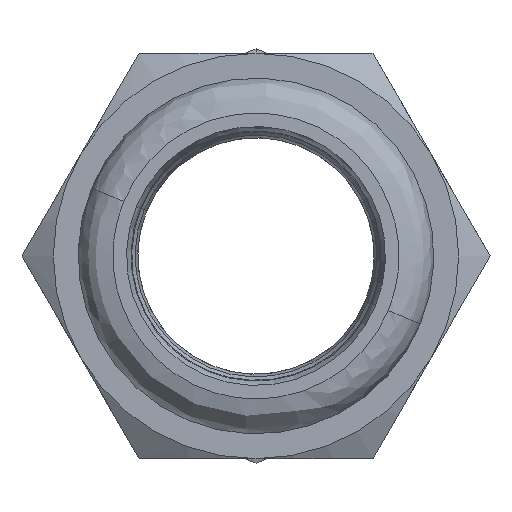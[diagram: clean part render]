
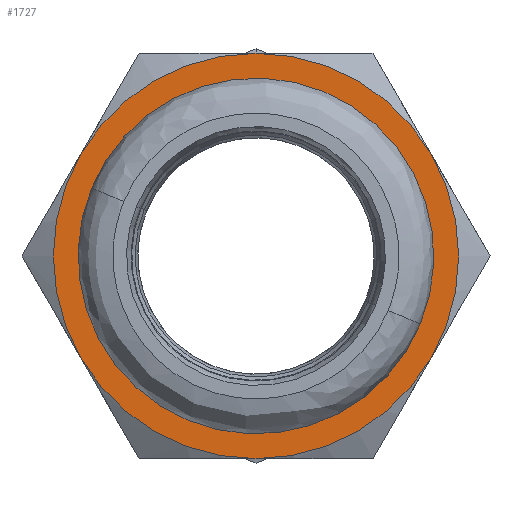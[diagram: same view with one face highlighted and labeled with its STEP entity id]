
A CAD part, left-side view. The second image highlights one B-rep face of the part: STEP entity #1727.
In plain terms, the highlighted planar face has unit normal (-1, 0, 0) as drawn and (0, 1, 0) by its records, which use the part's own axes.
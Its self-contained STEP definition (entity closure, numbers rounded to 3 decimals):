
#75 = ORIENTED_EDGE ( 'NONE', *, *, #4840, .T. ) ;
#177 = DIRECTION ( 'NONE',  ( 0., -1., 0. ) ) ;
#337 = AXIS2_PLACEMENT_3D ( 'NONE', #4874, #1326, #3311 ) ;
#390 = CARTESIAN_POINT ( 'NONE',  ( 15.588, 17., 9. ) ) ;
#499 = ORIENTED_EDGE ( 'NONE', *, *, #2508, .T. ) ;
#558 = VERTEX_POINT ( 'NONE', #2681 ) ;
#697 = FACE_BOUND ( 'NONE', #4267, .T. ) ;
#756 = AXIS2_PLACEMENT_3D ( 'NONE', #4436, #2142, #4473 ) ;
#765 = ORIENTED_EDGE ( 'NONE', *, *, #2080, .T. ) ;
#833 = DIRECTION ( 'NONE',  ( 0., 1., 0. ) ) ;
#834 = CARTESIAN_POINT ( 'NONE',  ( 0., 17., 18. ) ) ;
#851 = DIRECTION ( 'NONE',  ( 0., 0., -1. ) ) ;
#964 = CARTESIAN_POINT ( 'NONE',  ( 0., 17., 0. ) ) ;
#1117 = CIRCLE ( 'NONE', #756, 12.9 ) ;
#1165 = CARTESIAN_POINT ( 'NONE',  ( 0., 17., 0. ) ) ;
#1320 = CARTESIAN_POINT ( 'NONE',  ( 0., 17., 0. ) ) ;
#1326 = DIRECTION ( 'NONE',  ( 0., 1., 0. ) ) ;
#1442 = CIRCLE ( 'NONE', #4894, 12.9 ) ;
#1520 = DIRECTION ( 'NONE',  ( 0., 0., -1. ) ) ;
#1673 = CARTESIAN_POINT ( 'NONE',  ( 0., 17., 0. ) ) ;
#1727 = ADVANCED_FACE ( 'NONE', ( #2621, #697 ), #5056, .T. ) ;
#1728 = CARTESIAN_POINT ( 'NONE',  ( 15.588, 17., -9. ) ) ;
#1730 = CARTESIAN_POINT ( 'NONE',  ( 0., 17., -18. ) ) ;
#1780 = CARTESIAN_POINT ( 'NONE',  ( -15.588, 17., 9. ) ) ;
#1870 = CIRCLE ( 'NONE', #337, 18. ) ;
#1880 = ORIENTED_EDGE ( 'NONE', *, *, #3995, .T. ) ;
#1899 = CIRCLE ( 'NONE', #3992, 18. ) ;
#1919 = AXIS2_PLACEMENT_3D ( 'NONE', #964, #3666, #4054 ) ;
#1979 = DIRECTION ( 'NONE',  ( 1., 0., 0. ) ) ;
#2080 = EDGE_CURVE ( 'NONE', #3840, #558, #1442, .T. ) ;
#2142 = DIRECTION ( 'NONE',  ( 0., -1., 0. ) ) ;
#2154 = DIRECTION ( 'NONE',  ( 0., 0., 1. ) ) ;
#2341 = CIRCLE ( 'NONE', #3693, 18. ) ;
#2508 = EDGE_CURVE ( 'NONE', #4970, #4712, #1899, .T. ) ;
#2621 = FACE_OUTER_BOUND ( 'NONE', #3735, .T. ) ;
#2632 = DIRECTION ( 'NONE',  ( 0., 0., 1. ) ) ;
#2654 = DIRECTION ( 'NONE',  ( 0., 1., 0. ) ) ;
#2681 = CARTESIAN_POINT ( 'NONE',  ( 0., 17., 12.9 ) ) ;
#2828 = DIRECTION ( 'NONE',  ( 0., 1., 0. ) ) ;
#3019 = VERTEX_POINT ( 'NONE', #4334 ) ;
#3230 = CARTESIAN_POINT ( 'NONE',  ( 0., 17., 0. ) ) ;
#3256 = AXIS2_PLACEMENT_3D ( 'NONE', #3230, #2828, #3656 ) ;
#3311 = DIRECTION ( 'NONE',  ( 0., 0., -1. ) ) ;
#3317 = VERTEX_POINT ( 'NONE', #1728 ) ;
#3360 = EDGE_CURVE ( 'NONE', #3019, #4970, #2341, .T. ) ;
#3422 = CARTESIAN_POINT ( 'NONE',  ( 0., 17., 0. ) ) ;
#3455 = DIRECTION ( 'NONE',  ( 0., 1., 0. ) ) ;
#3637 = CARTESIAN_POINT ( 'NONE',  ( 0., 17., -12.9 ) ) ;
#3656 = DIRECTION ( 'NONE',  ( 0., 0., -1. ) ) ;
#3666 = DIRECTION ( 'NONE',  ( 0., 1., 0. ) ) ;
#3693 = AXIS2_PLACEMENT_3D ( 'NONE', #3422, #2654, #1520 ) ;
#3735 = EDGE_LOOP ( 'NONE', ( #1880, #4524, #499, #4276, #4001, #75 ) ) ;
#3826 = EDGE_CURVE ( 'NONE', #4402, #3317, #4788, .T. ) ;
#3840 = VERTEX_POINT ( 'NONE', #3637 ) ;
#3855 = AXIS2_PLACEMENT_3D ( 'NONE', #1165, #4326, #1979 ) ;
#3989 = VERTEX_POINT ( 'NONE', #1730 ) ;
#3992 = AXIS2_PLACEMENT_3D ( 'NONE', #1673, #833, #851 ) ;
#3995 = EDGE_CURVE ( 'NONE', #3989, #3019, #1870, .T. ) ;
#4001 = ORIENTED_EDGE ( 'NONE', *, *, #3826, .T. ) ;
#4020 = CIRCLE ( 'NONE', #1919, 18. ) ;
#4054 = DIRECTION ( 'NONE',  ( 1., 0., 0. ) ) ;
#4255 = CARTESIAN_POINT ( 'NONE',  ( 0., 17., 0. ) ) ;
#4267 = EDGE_LOOP ( 'NONE', ( #4756, #765 ) ) ;
#4276 = ORIENTED_EDGE ( 'NONE', *, *, #4368, .T. ) ;
#4326 = DIRECTION ( 'NONE',  ( 0., 1., 0. ) ) ;
#4334 = CARTESIAN_POINT ( 'NONE',  ( -15.588, 17., -9. ) ) ;
#4368 = EDGE_CURVE ( 'NONE', #4712, #4402, #4439, .T. ) ;
#4402 = VERTEX_POINT ( 'NONE', #390 ) ;
#4436 = CARTESIAN_POINT ( 'NONE',  ( 0., 17., 0. ) ) ;
#4439 = CIRCLE ( 'NONE', #3855, 18. ) ;
#4473 = DIRECTION ( 'NONE',  ( 0., 0., 1. ) ) ;
#4524 = ORIENTED_EDGE ( 'NONE', *, *, #3360, .T. ) ;
#4609 = AXIS2_PLACEMENT_3D ( 'NONE', #4255, #3455, #2632 ) ;
#4712 = VERTEX_POINT ( 'NONE', #834 ) ;
#4756 = ORIENTED_EDGE ( 'NONE', *, *, #4905, .T. ) ;
#4788 = CIRCLE ( 'NONE', #3256, 18. ) ;
#4840 = EDGE_CURVE ( 'NONE', #3317, #3989, #4020, .T. ) ;
#4874 = CARTESIAN_POINT ( 'NONE',  ( 0., 17., 0. ) ) ;
#4894 = AXIS2_PLACEMENT_3D ( 'NONE', #1320, #177, #2154 ) ;
#4905 = EDGE_CURVE ( 'NONE', #558, #3840, #1117, .T. ) ;
#4970 = VERTEX_POINT ( 'NONE', #1780 ) ;
#5056 = PLANE ( 'NONE',  #4609 ) ;
